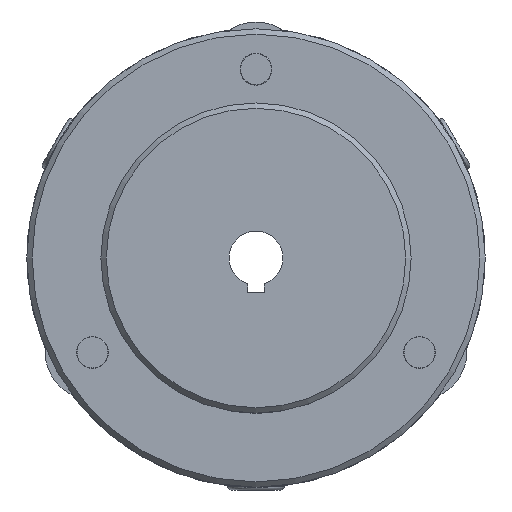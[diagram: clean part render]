
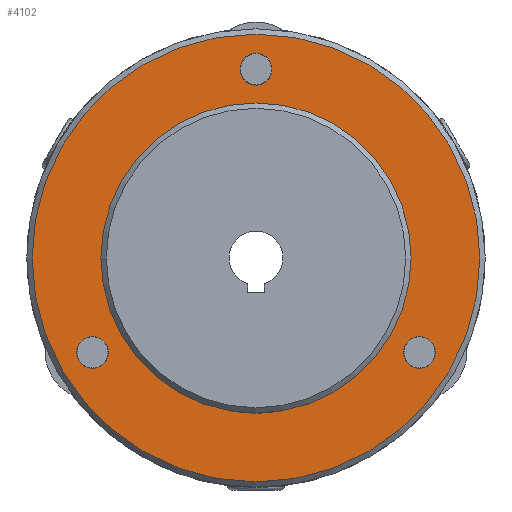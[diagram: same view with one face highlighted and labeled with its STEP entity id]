
A CAD part, left-side view. The second image highlights one B-rep face of the part: STEP entity #4102.
In plain terms, the highlighted planar face has unit normal (-1, 0, 0) as drawn and (0, 1, 0) by its records, which use the part's own axes.
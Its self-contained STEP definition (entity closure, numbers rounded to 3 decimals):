
#833=FACE_BOUND('',#1376,.T.);
#834=FACE_BOUND('',#1377,.T.);
#835=FACE_BOUND('',#1378,.T.);
#836=FACE_BOUND('',#1379,.T.);
#1083=FACE_OUTER_BOUND('',#1375,.T.);
#1375=EDGE_LOOP('',(#3752));
#1376=EDGE_LOOP('',(#3753));
#1377=EDGE_LOOP('',(#3754));
#1378=EDGE_LOOP('',(#3755));
#1379=EDGE_LOOP('',(#3756));
#1657=CIRCLE('',#4783,57.5);
#1658=CIRCLE('',#4786,83.);
#1661=CIRCLE('',#4791,5.918);
#1662=CIRCLE('',#4792,5.918);
#1663=CIRCLE('',#4793,5.918);
#2014=VERTEX_POINT('',#8789);
#2018=VERTEX_POINT('',#8836);
#2021=VERTEX_POINT('',#8846);
#2022=VERTEX_POINT('',#8848);
#2023=VERTEX_POINT('',#8850);
#2596=EDGE_CURVE('',#2014,#2014,#1657,.T.);
#2600=EDGE_CURVE('',#2018,#2018,#1658,.T.);
#2605=EDGE_CURVE('',#2021,#2021,#1661,.T.);
#2606=EDGE_CURVE('',#2022,#2022,#1662,.T.);
#2607=EDGE_CURVE('',#2023,#2023,#1663,.T.);
#3752=ORIENTED_EDGE('',*,*,#2600,.F.);
#3753=ORIENTED_EDGE('',*,*,#2596,.F.);
#3754=ORIENTED_EDGE('',*,*,#2605,.T.);
#3755=ORIENTED_EDGE('',*,*,#2606,.T.);
#3756=ORIENTED_EDGE('',*,*,#2607,.T.);
#3858=PLANE('',#4790);
#4102=ADVANCED_FACE('',(#1083,#833,#834,#835,#836),#3858,.T.);
#4783=AXIS2_PLACEMENT_3D('',#8791,#6004,#6005);
#4786=AXIS2_PLACEMENT_3D('',#8837,#6010,#6011);
#4790=AXIS2_PLACEMENT_3D('',#8845,#6020,#6021);
#4791=AXIS2_PLACEMENT_3D('',#8847,#6022,#6023);
#4792=AXIS2_PLACEMENT_3D('',#8849,#6024,#6025);
#4793=AXIS2_PLACEMENT_3D('',#8851,#6026,#6027);
#6004=DIRECTION('center_axis',(0.,1.,0.));
#6005=DIRECTION('ref_axis',(-1.,0.,0.));
#6010=DIRECTION('center_axis',(0.,-1.,0.));
#6011=DIRECTION('ref_axis',(1.,0.,0.));
#6020=DIRECTION('center_axis',(0.,1.,0.));
#6021=DIRECTION('ref_axis',(0.,0.,1.));
#6022=DIRECTION('center_axis',(0.,-1.,0.));
#6023=DIRECTION('ref_axis',(1.,0.,0.));
#6024=DIRECTION('center_axis',(0.,-1.,0.));
#6025=DIRECTION('ref_axis',(1.,0.,0.));
#6026=DIRECTION('center_axis',(0.,-1.,0.));
#6027=DIRECTION('ref_axis',(1.,0.,0.));
#8789=CARTESIAN_POINT('',(57.5,14.,0.));
#8791=CARTESIAN_POINT('Origin',(0.,14.,0.));
#8836=CARTESIAN_POINT('',(-83.,14.,0.));
#8837=CARTESIAN_POINT('Origin',(0.,14.,0.));
#8845=CARTESIAN_POINT('Origin',(-71.25,14.,0.));
#8846=CARTESIAN_POINT('',(-66.539,14.,-35.));
#8847=CARTESIAN_POINT('Origin',(-60.622,14.,-35.));
#8848=CARTESIAN_POINT('',(-5.918,14.,70.));
#8849=CARTESIAN_POINT('Origin',(0.,14.,70.));
#8850=CARTESIAN_POINT('',(54.704,14.,-35.));
#8851=CARTESIAN_POINT('Origin',(60.622,14.,-35.));
